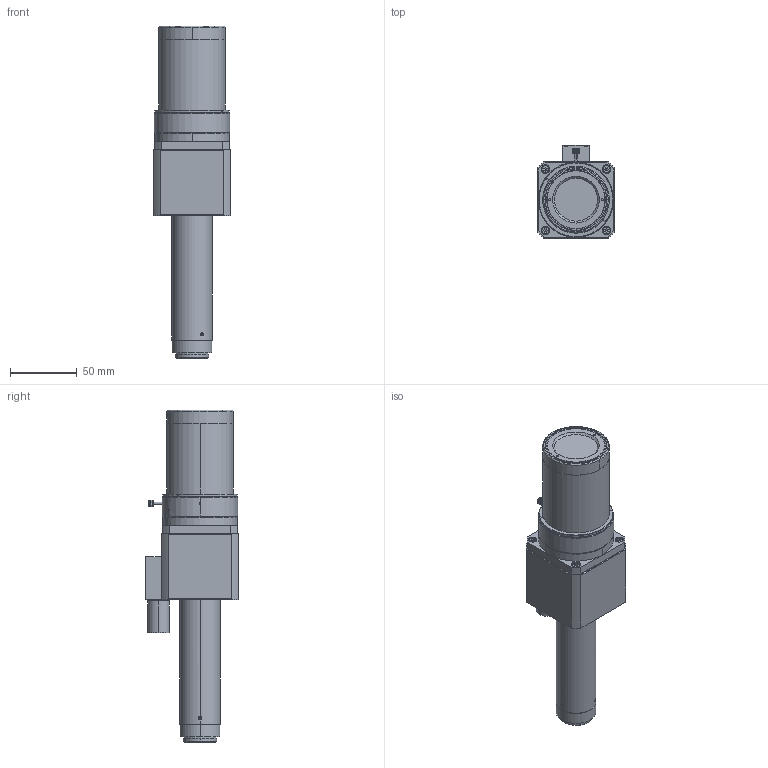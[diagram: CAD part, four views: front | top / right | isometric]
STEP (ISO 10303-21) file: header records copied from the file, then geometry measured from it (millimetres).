
FILE_DESCRIPTION (( 'STEP AP203' ), '1' );
FILE_NAME ('SOD-20X-VI_A04249A0100101A-001.STEP', '2013-06-04T01:00:15', ( 'Satoh' ), ( '株式会社モリテックス' ), 'SwSTEP 2.0', 'SolidWorks 2011', '' );
FILE_SCHEMA (( 'CONFIG_CONTROL_DESIGN' ));
Products named in the file (1): SOD-20X-VI_A04249A0100101A-001
Bounding box: 58 x 70 x 248.95 mm (x, y, z)
Volume: 445383.7 mm3; surface area: 48898.9 mm2
Topology: 1 solids, 24 shells, 1024 faces, 2559 edges, 1640 vertices
Faces by surface type: plane 464, cylinder 244, cone 144, bspline 128, torus 34, sphere 10
Entity records: 42700 total; most frequent: CARTESIAN_POINT 19725, ORIENTED_EDGE 5082, DIRECTION 4242, EDGE_CURVE 2541, AXIS2_PLACEMENT_3D 1663, VERTEX_POINT 1640, EDGE_LOOP 1115, FACE_OUTER_BOUND 1024
